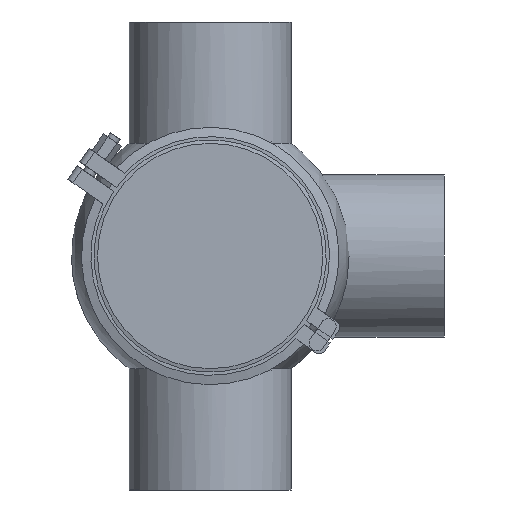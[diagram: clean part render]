
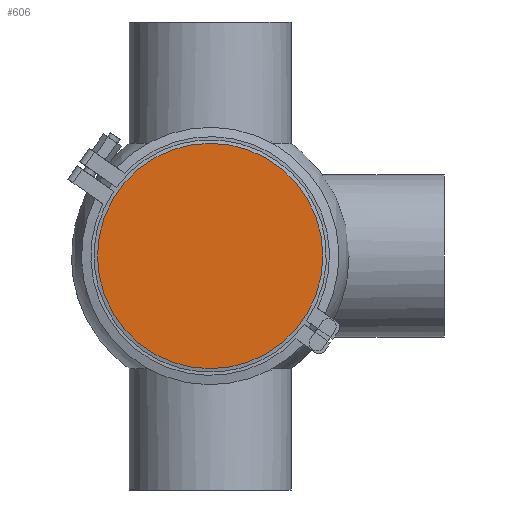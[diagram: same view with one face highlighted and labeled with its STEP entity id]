
A CAD part, front view. The second image highlights one B-rep face of the part: STEP entity #606.
In plain terms, the highlighted planar face has unit normal (0, -1, 0).
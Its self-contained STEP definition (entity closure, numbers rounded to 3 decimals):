
#13 = ORIENTED_EDGE ( 'NONE', *, *, #16602, .F. ) ;
#412 = VERTEX_POINT ( 'NONE', #12091 ) ;
#606 = ADVANCED_FACE ( 'NONE', ( #12444 ), #12225, .T. ) ;
#4052 = AXIS2_PLACEMENT_3D ( 'NONE', #17252, #5685, #4054 ) ;
#4054 = DIRECTION ( 'NONE',  ( 0., 0., -1. ) ) ;
#5685 = DIRECTION ( 'NONE',  ( 0., -1., 0. ) ) ;
#7798 = CIRCLE ( 'NONE', #20622, 72.25 ) ;
#8275 = DIRECTION ( 'NONE',  ( 0., 1., 0. ) ) ;
#9471 = EDGE_LOOP ( 'NONE', ( #13 ) ) ;
#11645 = CARTESIAN_POINT ( 'NONE',  ( 0., 0., 0. ) ) ;
#12091 = CARTESIAN_POINT ( 'NONE',  ( 0., 0., 72.25 ) ) ;
#12225 = PLANE ( 'NONE',  #4052 ) ;
#12444 = FACE_OUTER_BOUND ( 'NONE', #9471, .T. ) ;
#16602 = EDGE_CURVE ( 'NONE', #412, #412, #7798, .T. ) ;
#17252 = CARTESIAN_POINT ( 'NONE',  ( -72.25, 0., 0. ) ) ;
#18095 = DIRECTION ( 'NONE',  ( 0., 0., 1. ) ) ;
#20622 = AXIS2_PLACEMENT_3D ( 'NONE', #11645, #8275, #18095 ) ;
